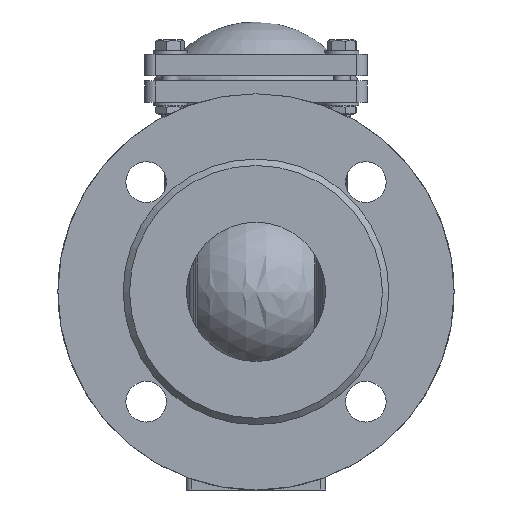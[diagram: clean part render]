
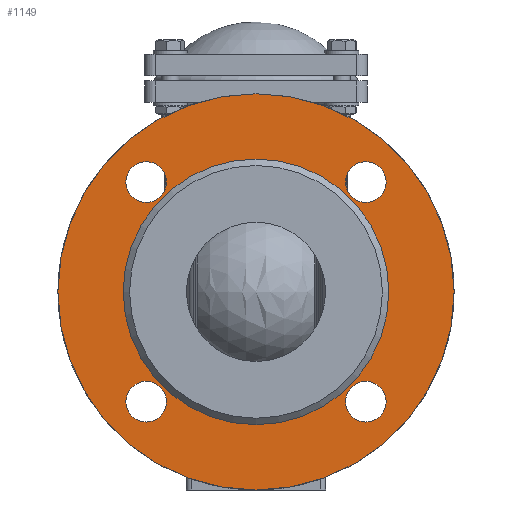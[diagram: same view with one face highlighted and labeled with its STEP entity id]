
A CAD part, left-side view. The second image highlights one B-rep face of the part: STEP entity #1149.
In plain terms, the highlighted planar face has unit normal (-1, 0, 0).
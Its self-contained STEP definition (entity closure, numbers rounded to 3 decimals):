
#1149=ADVANCED_FACE('',(#4500,#4502,#4504,#4506,#4508,#4510),#4512,.F.);
#4500=FACE_BOUND('',#4501,.T.);
#4501=EDGE_LOOP('',(#9215));
#4502=FACE_BOUND('',#4503,.T.);
#4503=EDGE_LOOP('',(#9216));
#4504=FACE_BOUND('',#4505,.T.);
#4505=EDGE_LOOP('',(#9217));
#4506=FACE_BOUND('',#4507,.T.);
#4507=EDGE_LOOP('',(#9218));
#4508=FACE_BOUND('',#4509,.T.);
#4509=EDGE_LOOP('',(#9219));
#4510=FACE_BOUND('',#4511,.T.);
#4511=EDGE_LOOP('',(#9220));
#4512=PLANE('',#4513);
#4513=AXIS2_PLACEMENT_3D('',#4514,#4515,#4516);
#4514=CARTESIAN_POINT('',(-237.,0.,0.));
#4515=DIRECTION('',(1.,0.,0.));
#4516=DIRECTION('',(0.,0.,1.));
#9215=ORIENTED_EDGE('',*,*,#11878,.T.);
#9216=ORIENTED_EDGE('',*,*,#11879,.T.);
#9217=ORIENTED_EDGE('',*,*,#11880,.T.);
#9218=ORIENTED_EDGE('',*,*,#11881,.T.);
#9219=ORIENTED_EDGE('',*,*,#11882,.T.);
#9220=ORIENTED_EDGE('',*,*,#11863,.F.);
#11863=EDGE_CURVE('',#13035,#13035,#13036,.T.);
#11878=EDGE_CURVE('',#13063,#13063,#13064,.T.);
#11879=EDGE_CURVE('',#13065,#13065,#13066,.T.);
#11880=EDGE_CURVE('',#13067,#13067,#13068,.T.);
#11881=EDGE_CURVE('',#13069,#13069,#13070,.T.);
#11882=EDGE_CURVE('',#13071,#13071,#13072,.T.);
#13035=VERTEX_POINT('',#16142);
#13036=CIRCLE('',#16143,62.);
#13063=VERTEX_POINT('',#16449);
#13064=CIRCLE('',#16450,92.5);
#13065=VERTEX_POINT('',#16454);
#13066=CIRCLE('',#16455,9.5);
#13067=VERTEX_POINT('',#16459);
#13068=CIRCLE('',#16460,9.5);
#13069=VERTEX_POINT('',#16464);
#13070=CIRCLE('',#16465,9.5);
#13071=VERTEX_POINT('',#16469);
#13072=CIRCLE('',#16470,9.5);
#16142=CARTESIAN_POINT('',(-237.,0.,62.));
#16143=AXIS2_PLACEMENT_3D('',#16144,#16145,#16146);
#16144=CARTESIAN_POINT('',(-237.,0.,0.));
#16145=DIRECTION('',(-1.,0.,0.));
#16146=DIRECTION('',(0.,0.,1.));
#16449=CARTESIAN_POINT('',(-237.,0.,92.5));
#16450=AXIS2_PLACEMENT_3D('',#16451,#16452,#16453);
#16451=CARTESIAN_POINT('',(-237.,0.,0.));
#16452=DIRECTION('',(-1.,0.,0.));
#16453=DIRECTION('',(0.,0.,1.));
#16454=CARTESIAN_POINT('',(-237.,60.765,51.265));
#16455=AXIS2_PLACEMENT_3D('',#16456,#16457,#16458);
#16456=CARTESIAN_POINT('',(-237.,51.265,51.265));
#16457=DIRECTION('',(1.,0.,0.));
#16458=DIRECTION('',(0.,1.,0.));
#16459=CARTESIAN_POINT('',(-237.,-51.265,60.765));
#16460=AXIS2_PLACEMENT_3D('',#16461,#16462,#16463);
#16461=CARTESIAN_POINT('',(-237.,-51.265,51.265));
#16462=DIRECTION('',(1.,0.,0.));
#16463=DIRECTION('',(0.,0.,1.));
#16464=CARTESIAN_POINT('',(-237.,-60.765,-51.265));
#16465=AXIS2_PLACEMENT_3D('',#16466,#16467,#16468);
#16466=CARTESIAN_POINT('',(-237.,-51.265,-51.265));
#16467=DIRECTION('',(1.,0.,0.));
#16468=DIRECTION('',(0.,-1.,0.));
#16469=CARTESIAN_POINT('',(-237.,51.265,-60.765));
#16470=AXIS2_PLACEMENT_3D('',#16471,#16472,#16473);
#16471=CARTESIAN_POINT('',(-237.,51.265,-51.265));
#16472=DIRECTION('',(1.,0.,0.));
#16473=DIRECTION('',(0.,0.,-1.));
